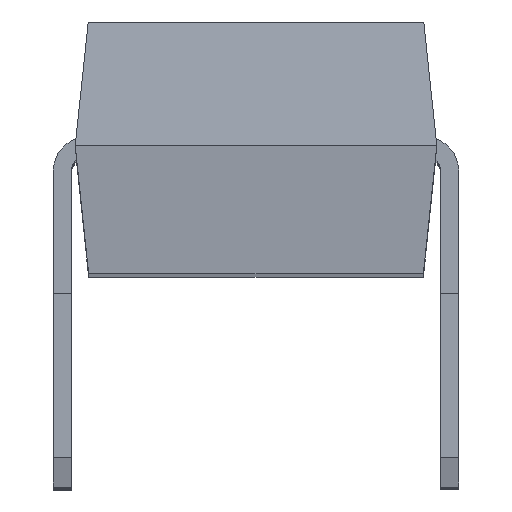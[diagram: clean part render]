
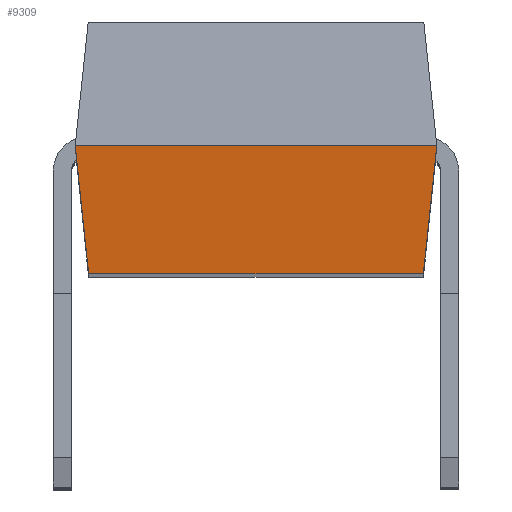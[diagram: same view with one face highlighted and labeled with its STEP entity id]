
A CAD part, top view. The second image highlights one B-rep face of the part: STEP entity #9309.
In plain terms, the highlighted planar face has unit normal (0, -0.104, 0.995).
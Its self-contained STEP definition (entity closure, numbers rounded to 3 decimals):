
#73 = CARTESIAN_POINT ( 'NONE',  ( 3.291, 0.381, 17.833 ) ) ;
#131 = CARTESIAN_POINT ( 'NONE',  ( -3.291, 0.381, 17.833 ) ) ;
#192 = CARTESIAN_POINT ( 'NONE',  ( 3.556, 2.9, 18.097 ) ) ;
#285 = CARTESIAN_POINT ( 'NONE',  ( -3.556, 2.9, 18.098 ) ) ;
#2452 = PLANE ( 'NONE',  #4244 ) ;
#2464 = CARTESIAN_POINT ( 'NONE',  ( -3.556, 2.9, 18.098 ) ) ;
#2465 = DIRECTION ( 'NONE',  ( 0., -0.105, 0.995 ) ) ;
#2466 = DIRECTION ( 'NONE',  ( 0., -0.995, -0.105 ) ) ;
#3069 = CARTESIAN_POINT ( 'NONE',  ( -3.556, 2.9, 18.098 ) ) ;
#3070 = DIRECTION ( 'NONE',  ( 1., 0., 0. ) ) ;
#3093 = CARTESIAN_POINT ( 'NONE',  ( -3.556, 0.381, 17.833 ) ) ;
#3094 = DIRECTION ( 'NONE',  ( -1., 0., 0. ) ) ;
#4244 = AXIS2_PLACEMENT_3D ( 'NONE', #2464, #2465, #2466 ) ;
#4785 = LINE ( 'NONE', #9112, #4790 ) ;
#4790 = VECTOR ( 'NONE', #9119, 1000. ) ;
#4793 = LINE ( 'NONE', #9124, #4796 ) ;
#4796 = VECTOR ( 'NONE', #9126, 1000. ) ;
#4941 = LINE ( 'NONE', #3069, #4944 ) ;
#4944 = VECTOR ( 'NONE', #3070, 1000. ) ;
#4962 = LINE ( 'NONE', #3093, #4965 ) ;
#4965 = VECTOR ( 'NONE', #3094, 1000. ) ;
#6423 = FACE_OUTER_BOUND ( 'NONE', #7463, .T. ) ;
#7463 = EDGE_LOOP ( 'NONE', ( #7754, #7752, #7751, #7753 ) ) ;
#7751 = ORIENTED_EDGE ( 'NONE', *, *, #9765, .F. ) ;
#7752 = ORIENTED_EDGE ( 'NONE', *, *, #9675, .T. ) ;
#7753 = ORIENTED_EDGE ( 'NONE', *, *, #9672, .F. ) ;
#7754 = ORIENTED_EDGE ( 'NONE', *, *, #9777, .F. ) ;
#9112 = CARTESIAN_POINT ( 'NONE',  ( -3.556, 2.9, 18.098 ) ) ;
#9119 = DIRECTION ( 'NONE',  ( -0.104, 0.989, 0.104 ) ) ;
#9124 = CARTESIAN_POINT ( 'NONE',  ( 3.479, 2.169, 18.021 ) ) ;
#9126 = DIRECTION ( 'NONE',  ( 0.104, 0.989, 0.104 ) ) ;
#9309 = ADVANCED_FACE ( 'NONE', ( #6423 ), #2452, .T. ) ;
#9672 = EDGE_CURVE ( 'NONE', #12367, #12723, #4785, .T. ) ;
#9675 = EDGE_CURVE ( 'NONE', #12187, #12480, #4793, .T. ) ;
#9765 = EDGE_CURVE ( 'NONE', #12723, #12480, #4941, .T. ) ;
#9777 = EDGE_CURVE ( 'NONE', #12187, #12367, #4962, .T. ) ;
#12187 = VERTEX_POINT ( 'NONE', #73 ) ;
#12367 = VERTEX_POINT ( 'NONE', #131 ) ;
#12480 = VERTEX_POINT ( 'NONE', #192 ) ;
#12723 = VERTEX_POINT ( 'NONE', #285 ) ;
